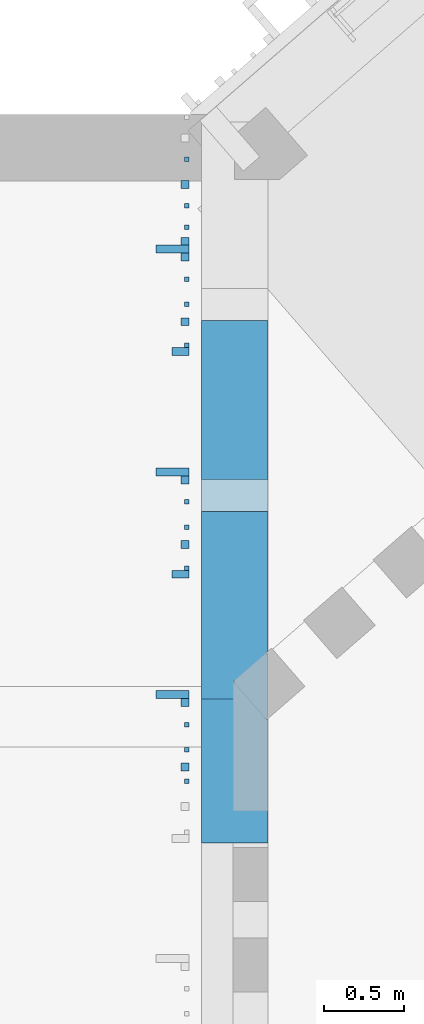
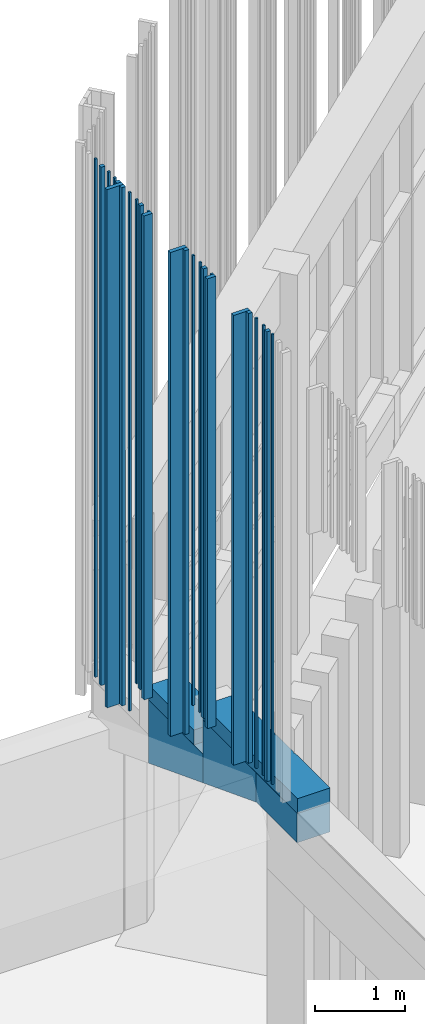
# One storey, part 130 of 390: 30 walls.
"""IFC2X3 building model written with IfcOpenShell, lengths in millimetres."""

from ifc_helpers import new_model, entity, si_unit, converted_unit, derived_unit, money_unit, direction, frame, origin_with_axes, place, context, subcontext, project, spatial, faceted_brep, material, material_list, type_object, element, save


model = new_model("IFC2X3")

# Units and contexts
model_context = context("Model", 3, precision=1e-05, world=origin_with_axes(), true_north=direction((0.0, 1.0)))
body_context = subcontext(model_context, "Body", "Model", "MODEL_VIEW")
ifc_project = project(units=[si_unit("LENGTHUNIT", "METRE", prefix="MILLI"), si_unit("AREAUNIT", "SQUARE_METRE"), si_unit("VOLUMEUNIT", "CUBIC_METRE"), converted_unit("PLANEANGLEUNIT", "DEGREE", entity("IfcPlaneAngleMeasure", 0.0174532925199), si_unit("PLANEANGLEUNIT", "RADIAN"), dimensions=[0, 0, 0, 0, 0, 0, 0]), si_unit("SOLIDANGLEUNIT", "STERADIAN"), money_unit("EUR"), converted_unit("TIMEUNIT", "Year", entity("IfcTimeMeasure", 31556926.0), si_unit("TIMEUNIT", "SECOND"), dimensions=[0, 0, 1, 0, 0, 0, 0]), si_unit("MASSUNIT", "GRAM", prefix="KILO"), si_unit("THERMODYNAMICTEMPERATUREUNIT", "DEGREE_CELSIUS"), si_unit("LUMINOUSINTENSITYUNIT", "LUMEN"), si_unit("ENERGYUNIT", "JOULE", prefix="MEGA"), derived_unit("THERMALCONDUCTANCEUNIT", [(si_unit("POWERUNIT", "WATT"), 1), (si_unit("LENGTHUNIT", "METRE"), -1), (si_unit("THERMODYNAMICTEMPERATUREUNIT", "KELVIN"), -1)]), derived_unit("SPECIFICHEATCAPACITYUNIT", [(si_unit("ENERGYUNIT", "JOULE"), 1), (si_unit("MASSUNIT", "GRAM", prefix="KILO"), -1), (si_unit("THERMODYNAMICTEMPERATUREUNIT", "KELVIN"), -1)]), derived_unit("MASSDENSITYUNIT", [(si_unit("MASSUNIT", "GRAM", prefix="KILO"), 1), (si_unit("VOLUMEUNIT", "CUBIC_METRE"), -1)])], contexts=[model_context])

# Site, building, storey
site_placement = place(None, origin_with_axes())
site = spatial("IfcSite", under=ifc_project, at=site_placement, Name="Site", CompositionType="ELEMENT")
building_placement = place(site_placement, origin_with_axes())
building = spatial("IfcBuilding", under=site, at=building_placement, Name="Building", CompositionType="ELEMENT")
storey_placement = place(building_placement, origin_with_axes())
storey = spatial("IfcBuildingStorey", under=building, at=storey_placement, Name="1 korrus", CompositionType="ELEMENT", Elevation=0.0)

# Walls
ifc_material_1 = material(Name="Membraan - Veekindel")
ifc_material_2 = material(Name="Soojustus - Plastik Kõva")
ifc_material_3 = material(Name="Raudbetoon - Konstruktsioon")
ifc_material_4 = material(Name="Krohv - Lubjakivi")
ifc_material_list_1 = material_list([ifc_material_1, ifc_material_1, ifc_material_2, ifc_material_2, ifc_material_3, ifc_material_4, ifc_material_4])
wall_type_1 = type_object("IfcWallType", Name="VS-03", PredefinedType="NOTDEFINED")
wall_1_placement = place(storey_placement, frame((122909.999995, 71828.9918313, 3200.23676118), z_axis=(0.0, 0.0, 1.0), x_axis=(0.0, 1.0, 0.0)))
element("IfcWall", 1, at=wall_1_placement, inside=storey, type_object=wall_type_1, material=ifc_material_list_1, Name="VS-03", context=body_context, shape_type="Brep", body=[
    faceted_brep([(905.52616027, 420.000000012, 0.0), (905.52616027, 415.000000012, 0.0), (-5.55644419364e-09, 415.0, 0.0), (-5.62749846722e-09, 420.0, 0.0), (905.52616027, 420.000000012, 394.763238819), (905.52616027, 415.000000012, 394.763238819), (-5.55644419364e-09, 415.0, 394.763238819), (-5.62749846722e-09, 420.0, 394.763238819)], [[[0, 1, 2, 3]], [[0, 4, 5, 1]], [[1, 5, 6, 2]], [[3, 2, 6, 7]], [[4, 0, 3, 7]], [[5, 4, 7, 6]]]),
    faceted_brep([(905.52616027, 415.000000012, 0.0), (905.52616027, 410.000000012, 0.0), (-5.48538992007e-09, 410.0, 0.0), (-5.55644419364e-09, 415.0, 0.0), (905.52616027, 415.000000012, 394.763238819), (905.52616027, 410.000000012, 394.763238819), (-5.48538992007e-09, 410.0, 394.763238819), (-5.55644419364e-09, 415.0, 394.763238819)], [[[0, 1, 2, 3]], [[0, 4, 5, 1]], [[1, 5, 6, 2]], [[3, 2, 6, 7]], [[4, 0, 3, 7]], [[5, 4, 7, 6]]]),
    faceted_brep([(905.52616027, 410.000000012, 0.0), (905.526160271, 360.000000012, 0.0), (-4.81747974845e-09, 360.0, 0.0), (-5.48538992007e-09, 410.0, 0.0), (905.52616027, 410.000000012, 394.763238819), (905.526160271, 360.000000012, 394.763238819), (-4.81747974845e-09, 360.0, 394.763238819), (-5.48538992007e-09, 410.0, 394.763238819)], [[[0, 1, 2, 3]], [[0, 4, 5, 1]], [[1, 5, 6, 2]], [[3, 2, 6, 7]], [[4, 0, 3, 7]], [[5, 4, 7, 6]]]),
    faceted_brep([(905.526160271, 360.000000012, 0.0), (905.526160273, 210.000000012, 0.0), (-2.81374923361e-09, 210.0, 0.0), (-4.81747974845e-09, 360.0, 0.0), (905.526160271, 360.000000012, 394.763238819), (905.526160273, 210.000000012, 394.763238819), (-2.81374923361e-09, 210.0, 394.763238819), (-4.81747974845e-09, 360.0, 394.763238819)], [[[0, 1, 2, 3]], [[0, 4, 5, 1]], [[1, 5, 6, 2]], [[3, 2, 6, 7]], [[4, 0, 3, 7]], [[5, 4, 7, 6]]]),
    faceted_brep([(905.526160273, 210.000000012, 0.0), (905.526160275, 10.0000000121, 0.0), (-1.27897692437e-10, 10.0, 0.0), (-2.81374923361e-09, 210.0, 0.0), (905.526160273, 210.000000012, 394.763238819), (905.526160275, 10.0000000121, 394.763238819), (-1.27897692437e-10, 10.0, 394.763238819), (-2.81374923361e-09, 210.0, 394.763238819)], [[[0, 1, 2, 3]], [[0, 4, 5, 1]], [[1, 5, 6, 2]], [[3, 2, 6, 7]], [[4, 0, 3, 7]], [[5, 4, 7, 6]]]),
    faceted_brep([(782.265032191, 1.04876107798e-08, 0.0), (782.265032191, 1.04876107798e-08, 394.763238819), (0.0, 0.0, 394.763238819), (0.0, 0.0, 0.0), (773.572164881, 10.0000000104, 394.763238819), (773.572164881, 10.0000000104, 0.0), (-1.27897692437e-10, 10.0, 394.763238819), (-1.27897692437e-10, 10.0, 0.0)], [[[0, 1, 2, 3]], [[4, 1, 0, 5]], [[1, 4, 6, 2]], [[6, 7, 3, 2]], [[5, 0, 3, 7]], [[4, 5, 7, 6]]]),
    faceted_brep([(788.691278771, 10.0000000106, 394.763238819), (787.626730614, 9.07460242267, 394.763238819), (795.51516208, 1.06581410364e-08, 394.763238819), (905.526160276, 1.21360699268e-08, 394.763238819), (905.526160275, 10.0000000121, 394.763238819), (788.691278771, 10.0000000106, 0.0), (787.626730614, 9.07460242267, 0.0), (795.51516208, 1.06581410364e-08, 0.0), (905.526160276, 1.21360699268e-08, 0.0), (905.526160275, 10.0000000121, 0.0)], [[[0, 1, 2, 3, 4]], [[1, 0, 5, 6]], [[7, 2, 1, 6]], [[2, 7, 8, 3]], [[8, 9, 4, 3]], [[5, 0, 4, 9]], [[6, 5, 9, 8, 7]]]),
])
ifc_material_list_2 = material_list([ifc_material_1, ifc_material_1, ifc_material_2, ifc_material_2, ifc_material_3, ifc_material_4])
wall_type_2 = type_object("IfcWallType", Name="VS-04", PredefinedType="NOTDEFINED")
wall_2_placement = place(storey_placement, frame((122910.0, 73913.9918312, 1734.76324011), z_axis=(0.0, 0.0, 1.0), x_axis=(0.0, 1.0, 0.0)))
element("IfcWall", 2, at=wall_2_placement, inside=storey, type_object=wall_type_2, material=ifc_material_list_2, Name="VS-03", context=body_context, shape_type="Brep", body=[
    faceted_brep([(-5.55644419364e-09, 415.0, 1011.41857124), (1200.0, 415.000000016, 549.461789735), (1200.0, 415.000000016, 1400.23675989), (-5.55644419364e-09, 415.0, 1400.23675989), (1200.0, 420.000000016, 549.461789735), (-5.62749846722e-09, 420.0, 1011.41857124), (1200.0, 420.000000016, 1400.23675989), (-5.62749846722e-09, 420.0, 1400.23675989)], [[[0, 1, 2, 3]], [[4, 1, 0, 5]], [[1, 4, 6, 2]], [[3, 2, 6, 7]], [[5, 0, 3, 7]], [[4, 5, 7, 6]]]),
    faceted_brep([(-5.49960077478e-09, 410.0, 1011.41857124), (1200.0, 410.000000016, 549.461789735), (1200.0, 410.000000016, 1400.23675989), (-5.49960077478e-09, 410.0, 1400.23675989), (1200.0, 415.000000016, 549.461789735), (-5.55644419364e-09, 415.0, 1011.41857124), (1200.0, 415.000000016, 1400.23675989), (-5.55644419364e-09, 415.0, 1400.23675989)], [[[0, 1, 2, 3]], [[4, 1, 0, 5]], [[1, 4, 6, 2]], [[3, 2, 6, 7]], [[5, 0, 3, 7]], [[4, 5, 7, 6]]]),
    faceted_brep([(-4.83169060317e-09, 360.0, 1011.41857124), (1200.0, 360.000000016, 549.461789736), (1200.0, 360.000000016, 1400.23675989), (-4.83169060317e-09, 360.0, 1400.23675989), (1200.0, 410.000000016, 549.461789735), (-5.49960077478e-09, 410.0, 1011.41857124), (1200.0, 410.000000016, 1400.23675989), (-5.49960077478e-09, 410.0, 1400.23675989)], [[[0, 1, 2, 3]], [[4, 1, 0, 5]], [[1, 4, 6, 2]], [[3, 2, 6, 7]], [[5, 0, 3, 7]], [[4, 5, 7, 6]]]),
    faceted_brep([(-2.81374923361e-09, 210.0, 1011.41857125), (1200.0, 210.000000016, 549.461789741), (1200.0, 210.000000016, 1400.23675989), (-2.81374923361e-09, 210.0, 1400.23675989), (1200.0, 360.000000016, 549.461789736), (-4.83169060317e-09, 360.0, 1011.41857124), (1200.0, 360.000000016, 1400.23675989), (-4.83169060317e-09, 360.0, 1400.23675989)], [[[0, 1, 2, 3]], [[4, 1, 0, 5]], [[1, 4, 6, 2]], [[3, 2, 6, 7]], [[5, 0, 3, 7]], [[4, 5, 7, 6]]]),
    faceted_brep([(-1.42108547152e-10, 10.0, 1011.41857125), (1200.00000001, 10.0000000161, 549.461789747), (1200.00000001, 10.0000000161, 1400.23675989), (-1.42108547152e-10, 10.0, 1400.23675989), (1200.0, 210.000000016, 549.461789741), (-2.81374923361e-09, 210.0, 1011.41857125), (1200.0, 210.000000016, 1400.23675989), (-2.81374923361e-09, 210.0, 1400.23675989)], [[[0, 1, 2, 3]], [[4, 1, 0, 5]], [[1, 4, 6, 2]], [[3, 2, 6, 7]], [[5, 0, 3, 7]], [[4, 5, 7, 6]]]),
    faceted_brep([(0.0, 0.0, 1011.41857125), (1200.00000001, 1.60724766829e-08, 549.461789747), (1200.00000001, 1.60724766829e-08, 1400.23675989), (0.0, 0.0, 1400.23675989), (1200.00000001, 10.0000000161, 549.461789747), (-1.42108547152e-10, 10.0, 1011.41857125), (1200.00000001, 10.0000000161, 1400.23675989), (-1.42108547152e-10, 10.0, 1400.23675989)], [[[0, 1, 2, 3]], [[4, 1, 0, 5]], [[1, 4, 6, 2]], [[3, 2, 6, 7]], [[5, 0, 3, 7]], [[4, 5, 7, 6]]]),
])
wall_3_placement = place(storey_placement, frame((122909.999995, 72734.5179915, 2194.76324011), z_axis=(0.0, 0.0, 1.0), x_axis=(0.0, 1.0, 0.0)))
element("IfcWall", 3, at=wall_3_placement, inside=storey, type_object=wall_type_2, material=ifc_material_list_2, Name="VS-03", context=body_context, shape_type="Brep", body=[
    faceted_brep([(-1.53664814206e-06, 415.0, 1005.47352088), (1179.47383971, 415.000000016, 551.418571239), (1179.47383971, 415.000000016, 1400.23675989), (-5.57065504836e-09, 415.0, 1400.23675989), (1179.47383971, 420.000000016, 551.418571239), (-1.53396229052e-06, 420.0, 1005.47352088), (1179.47383971, 420.000000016, 1400.23675989), (-5.62749846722e-09, 420.0, 1400.23675989)], [[[0, 1, 2, 3]], [[4, 1, 0, 5]], [[1, 4, 6, 2]], [[3, 2, 6, 7]], [[5, 0, 3, 7]], [[4, 5, 7, 6]]]),
    faceted_brep([(-1.53931978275e-06, 410.0, 1005.47352088), (1179.47383971, 410.000000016, 551.418571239), (1179.47383971, 410.000000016, 1400.23675989), (-5.49960077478e-09, 410.0, 1400.23675989), (1179.47383971, 415.000000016, 551.418571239), (-1.53664814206e-06, 415.0, 1005.47352088), (1179.47383971, 415.000000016, 1400.23675989), (-5.57065504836e-09, 415.0, 1400.23675989)], [[[0, 1, 2, 3]], [[4, 1, 0, 5]], [[1, 4, 6, 2]], [[3, 2, 6, 7]], [[5, 0, 3, 7]], [[4, 5, 7, 6]]]),
    faceted_brep([(-1.56607882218e-06, 360.0, 1005.47352089), (1179.47383971, 360.000000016, 551.418571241), (1179.47383971, 360.000000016, 1400.23675989), (-4.83169060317e-09, 360.0, 1400.23675989), (1179.47383971, 410.000000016, 551.418571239), (-1.53931978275e-06, 410.0, 1005.47352088), (1179.47383971, 410.000000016, 1400.23675989), (-5.49960077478e-09, 410.0, 1400.23675989)], [[[0, 1, 2, 3]], [[4, 1, 0, 5]], [[1, 4, 6, 2]], [[3, 2, 6, 7]], [[5, 0, 3, 7]], [[4, 5, 7, 6]]]),
    faceted_brep([(-1.64632751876e-06, 210.0, 1005.47352093), (1179.47383972, 210.000000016, 551.418571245), (1179.47383972, 210.000000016, 1400.23675989), (-2.81374923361e-09, 210.0, 1400.23675989), (1179.47383971, 360.000000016, 551.418571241), (-1.56607882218e-06, 360.0, 1005.47352089), (1179.47383971, 360.000000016, 1400.23675989), (-4.83169060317e-09, 360.0, 1400.23675989)], [[[0, 1, 2, 3]], [[4, 1, 0, 5]], [[1, 4, 6, 2]], [[3, 2, 6, 7]], [[5, 0, 3, 7]], [[4, 5, 7, 6]]]),
    faceted_brep([(-1.75334946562e-06, 10.0, 1005.47352098), (1179.47383972, 10.0000000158, 551.418571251), (1179.47383972, 10.0000000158, 1400.23675989), (-1.42108547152e-10, 10.0, 1400.23675989), (1179.47383972, 210.000000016, 551.418571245), (-1.64632751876e-06, 210.0, 1005.47352093), (1179.47383972, 210.000000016, 1400.23675989), (-2.81374923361e-09, 210.0, 1400.23675989)], [[[0, 1, 2, 3]], [[4, 1, 0, 5]], [[1, 4, 6, 2]], [[3, 2, 6, 7]], [[5, 0, 3, 7]], [[4, 5, 7, 6]]]),
    faceted_brep([(-1.75869274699e-06, 0.0, 1005.47352098), (1179.47383972, 1.58024704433e-08, 551.418571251), (1179.47383972, 1.58024704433e-08, 1400.23675989), (0.0, 0.0, 1400.23675989), (1179.47383972, 10.0000000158, 551.418571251), (-1.75334946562e-06, 10.0, 1005.47352098), (1179.47383972, 10.0000000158, 1400.23675989), (-1.42108547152e-10, 10.0, 1400.23675989)], [[[0, 1, 2, 3]], [[4, 1, 0, 5]], [[1, 4, 6, 2]], [[3, 2, 6, 7]], [[5, 0, 3, 7]], [[4, 5, 7, 6]]]),
])
ifc_material_5 = material(Name="Site specified")
wall_type_3 = type_object("IfcWallType", Name="Puitfassaadi ribistik", PredefinedType="NOTDEFINED")
wall_4_placement = place(storey_placement, frame((122398.999994, 72415.0000101, 3795.0), z_axis=(0.0, 0.0, 1.0), x_axis=(0.0, 1.0, 0.0)))
element("IfcWall", 4, at=wall_4_placement, inside=storey, type_object=wall_type_3, material=ifc_material_5, Name="Site specified", context=body_context, shape_type="Brep", body=[
    faceted_brep([(14.0, 14.0, 6070.0), (14.0, 14.0, 0.0), (-14.0, 14.0, 0.0), (-14.0, 14.0, 6070.0), (14.0, -14.0, 6070.0), (14.0, -14.0, 0.0), (-14.0, -14.0, 0.0), (-14.0, -14.0, 6070.0)], [[[0, 1, 2, 3]], [[4, 5, 1, 0]], [[2, 1, 5, 6]], [[3, 2, 6, 7]], [[4, 0, 3, 7]], [[7, 6, 5, 4]]]),
])
wall_5_placement = place(storey_placement, frame((122308.499994, 72762.0000101, 3795.0), z_axis=(0.0, 0.0, 1.0), x_axis=(0.0, 1.0, 0.0)))
element("IfcWall", 5, at=wall_5_placement, inside=storey, type_object=wall_type_3, material=ifc_material_5, Name="Site specified", context=body_context, shape_type="Brep", body=[
    faceted_brep([(25.0, 104.5, 6070.0), (25.0, 104.5, 0.0), (-25.0, 104.5, 0.0), (-25.0, 104.5, 6070.0), (25.0, -104.5, 6070.0), (25.0, -104.5, 0.0), (-25.0, -104.5, 0.0), (-25.0, -104.5, 6070.0)], [[[0, 1, 2, 3]], [[4, 5, 1, 0]], [[2, 1, 5, 6]], [[3, 2, 6, 7]], [[4, 0, 3, 7]], [[7, 6, 5, 4]]]),
])
wall_6_placement = place(storey_placement, frame((122387.999994, 72712.0000101, 3795.0), z_axis=(0.0, 0.0, 1.0), x_axis=(0.0, 1.0, 0.0)))
element("IfcWall", 6, at=wall_6_placement, inside=storey, type_object=wall_type_3, material=ifc_material_5, Name="Site specified", context=body_context, shape_type="Brep", body=[
    faceted_brep([(25.0, 25.0, 6070.0), (25.0, 25.0, 0.0), (-25.0, 25.0, 0.0), (-25.0, 25.0, 6070.0), (25.0, -25.0, 6070.0), (25.0, -25.0, 0.0), (-25.0, -25.0, 0.0), (-25.0, -25.0, 6070.0)], [[[0, 1, 2, 3]], [[4, 5, 1, 0]], [[2, 1, 5, 6]], [[3, 2, 6, 7]], [[4, 0, 3, 7]], [[7, 6, 5, 4]]]),
])
wall_7_placement = place(storey_placement, frame((122387.999994, 75106.0000101, 3335.0), z_axis=(0.0, 0.0, 1.0), x_axis=(0.0, 1.0, 0.0)))
element("IfcWall", 7, at=wall_7_placement, inside=storey, type_object=wall_type_3, material=ifc_material_5, Name="Site specified", context=body_context, shape_type="Brep", body=[
    faceted_brep([(25.0, 25.0, 6530.0), (25.0, 25.0, 0.0), (-25.0, 25.0, 0.0), (-25.0, 25.0, 6530.0), (25.0, -25.0, 6530.0), (25.0, -25.0, 0.0), (-25.0, -25.0, 0.0), (-25.0, -25.0, 6530.0)], [[[0, 1, 2, 3]], [[4, 5, 1, 0]], [[2, 1, 5, 6]], [[3, 2, 6, 7]], [[4, 0, 3, 7]], [[7, 6, 5, 4]]]),
])
wall_8_placement = place(storey_placement, frame((122398.999994, 73973.0000101, 3795.0), z_axis=(0.0, 0.0, 1.0), x_axis=(0.0, 1.0, 0.0)))
element("IfcWall", 8, at=wall_8_placement, inside=storey, type_object=wall_type_3, material=ifc_material_5, Name="Site specified", context=body_context, shape_type="Brep", body=[
    faceted_brep([(14.0, 14.0, 6070.0), (14.0, 14.0, 0.0), (-14.0, 14.0, 0.0), (-14.0, 14.0, 6070.0), (14.0, -14.0, 6070.0), (14.0, -14.0, 0.0), (-14.0, -14.0, 0.0), (-14.0, -14.0, 6070.0)], [[[0, 1, 2, 3]], [[4, 5, 1, 0]], [[2, 1, 5, 6]], [[3, 2, 6, 7]], [[4, 0, 3, 7]], [[7, 6, 5, 4]]]),
])
wall_9_placement = place(storey_placement, frame((122387.999994, 73706.0000101, 3795.0), z_axis=(0.0, 0.0, 1.0), x_axis=(0.0, 1.0, 0.0)))
element("IfcWall", 9, at=wall_9_placement, inside=storey, type_object=wall_type_3, material=ifc_material_5, Name="Site specified", context=body_context, shape_type="Brep", body=[
    faceted_brep([(25.0, 25.0, 6070.0), (25.0, 25.0, 0.0), (-25.0, 25.0, 0.0), (-25.0, 25.0, 6070.0), (25.0, -25.0, 6070.0), (25.0, -25.0, 0.0), (-25.0, -25.0, 0.0), (-25.0, -25.0, 6070.0)], [[[0, 1, 2, 3]], [[4, 5, 1, 0]], [[2, 1, 5, 6]], [[3, 2, 6, 7]], [[4, 0, 3, 7]], [[7, 6, 5, 4]]]),
])
wall_10_placement = place(storey_placement, frame((122398.999994, 72573.0000101, 3795.0), z_axis=(0.0, 0.0, 1.0), x_axis=(0.0, 1.0, 0.0)))
element("IfcWall", 10, at=wall_10_placement, inside=storey, type_object=wall_type_3, material=ifc_material_5, Name="Site specified", context=body_context, shape_type="Brep", body=[
    faceted_brep([(14.0, 14.0, 6070.0), (14.0, 14.0, 0.0), (-14.0, 14.0, 0.0), (-14.0, 14.0, 6070.0), (14.0, -14.0, 6070.0), (14.0, -14.0, 0.0), (-14.0, -14.0, 0.0), (-14.0, -14.0, 6070.0)], [[[0, 1, 2, 3]], [[4, 5, 1, 0]], [[2, 1, 5, 6]], [[3, 2, 6, 7]], [[4, 0, 3, 7]], [[7, 6, 5, 4]]]),
])
wall_11_placement = place(storey_placement, frame((122387.999994, 72306.0000101, 3795.0), z_axis=(0.0, 0.0, 1.0), x_axis=(0.0, 1.0, 0.0)))
element("IfcWall", 11, at=wall_11_placement, inside=storey, type_object=wall_type_3, material=ifc_material_5, Name="Site specified", context=body_context, shape_type="Brep", body=[
    faceted_brep([(25.0, 25.0, 6070.0), (25.0, 25.0, 0.0), (-25.0, 25.0, 0.0), (-25.0, 25.0, 6070.0), (25.0, -25.0, 6070.0), (25.0, -25.0, 0.0), (-25.0, -25.0, 0.0), (-25.0, -25.0, 6070.0)], [[[0, 1, 2, 3]], [[4, 5, 1, 0]], [[2, 1, 5, 6]], [[3, 2, 6, 7]], [[4, 0, 3, 7]], [[7, 6, 5, 4]]]),
])
wall_12_placement = place(storey_placement, frame((122398.999994, 72217.0000101, 3795.0), z_axis=(0.0, 0.0, 1.0), x_axis=(0.0, 1.0, 0.0)))
element("IfcWall", 12, at=wall_12_placement, inside=storey, type_object=wall_type_3, material=ifc_material_5, Name="Site specified", context=body_context, shape_type="Brep", body=[
    faceted_brep([(14.0, 14.0, 6070.0), (14.0, 14.0, 0.0), (-14.0, 14.0, 0.0), (-14.0, 14.0, 6070.0), (14.0, -14.0, 6070.0), (14.0, -14.0, 0.0), (-14.0, -14.0, 0.0), (-14.0, -14.0, 6070.0)], [[[0, 1, 2, 3]], [[4, 5, 1, 0]], [[2, 1, 5, 6]], [[3, 2, 6, 7]], [[4, 0, 3, 7]], [[7, 6, 5, 4]]]),
])
wall_13_placement = place(storey_placement, frame((122398.999994, 74957.0000101, 3335.0), z_axis=(0.0, 0.0, 1.0), x_axis=(0.0, 1.0, 0.0)))
element("IfcWall", 13, at=wall_13_placement, inside=storey, type_object=wall_type_3, material=ifc_material_5, Name="Site specified", context=body_context, shape_type="Brep", body=[
    faceted_brep([(14.0, 14.0, 6530.0), (14.0, 14.0, 0.0), (-14.0, 14.0, 0.0), (-14.0, 14.0, 6530.0), (14.0, -14.0, 6530.0), (14.0, -14.0, 0.0), (-14.0, -14.0, 0.0), (-14.0, -14.0, 6530.0)], [[[0, 1, 2, 3]], [[4, 5, 1, 0]], [[2, 1, 5, 6]], [[3, 2, 6, 7]], [[4, 0, 3, 7]], [[7, 6, 5, 4]]]),
])
wall_14_placement = place(storey_placement, frame((122358.499994, 74918.0000101, 3335.0), z_axis=(0.0, 0.0, 1.0), x_axis=(0.0, 1.0, 0.0)))
element("IfcWall", 14, at=wall_14_placement, inside=storey, type_object=wall_type_3, material=ifc_material_5, Name="Site specified", context=body_context, shape_type="Brep", body=[
    faceted_brep([(25.0, 54.5, 6530.0), (25.0, 54.5, 0.0), (-25.0, 54.5, 0.0), (-25.0, 54.5, 6530.0), (25.0, -54.5, 6530.0), (25.0, -54.5, 0.0), (-25.0, -54.5, 0.0), (-25.0, -54.5, 6530.0)], [[[0, 1, 2, 3]], [[4, 5, 1, 0]], [[2, 1, 5, 6]], [[3, 2, 6, 7]], [[4, 0, 3, 7]], [[7, 6, 5, 4]]]),
])
wall_15_placement = place(storey_placement, frame((122398.999994, 75215.0000101, 3335.0), z_axis=(0.0, 0.0, 1.0), x_axis=(0.0, 1.0, 0.0)))
element("IfcWall", 15, at=wall_15_placement, inside=storey, type_object=wall_type_3, material=ifc_material_5, Name="Site specified", context=body_context, shape_type="Brep", body=[
    faceted_brep([(14.0, 14.0, 6530.0), (14.0, 14.0, 0.0), (-14.0, 14.0, 0.0), (-14.0, 14.0, 6530.0), (14.0, -14.0, 6530.0), (14.0, -14.0, 0.0), (-14.0, -14.0, 0.0), (-14.0, -14.0, 6530.0)], [[[0, 1, 2, 3]], [[4, 5, 1, 0]], [[2, 1, 5, 6]], [[3, 2, 6, 7]], [[4, 0, 3, 7]], [[7, 6, 5, 4]]]),
])
wall_16_placement = place(storey_placement, frame((122387.999994, 75512.0000101, 2871.0), z_axis=(0.0, 0.0, 1.0), x_axis=(0.0, 1.0, 0.0)))
element("IfcWall", 16, at=wall_16_placement, inside=storey, type_object=wall_type_3, material=ifc_material_5, Name="Site specified", context=body_context, shape_type="Brep", body=[
    faceted_brep([(25.0, 25.0, 6994.0), (25.0, 25.0, 0.0), (-25.0, 25.0, 0.0), (-25.0, 25.0, 6994.0), (25.0, -25.0, 6994.0), (25.0, -25.0, 0.0), (-25.0, -25.0, 0.0), (-25.0, -25.0, 6994.0)], [[[0, 1, 2, 3]], [[4, 5, 1, 0]], [[2, 1, 5, 6]], [[3, 2, 6, 7]], [[4, 0, 3, 7]], [[7, 6, 5, 4]]]),
])
wall_17_placement = place(storey_placement, frame((122387.999994, 74112.0000101, 3335.0), z_axis=(0.0, 0.0, 1.0), x_axis=(0.0, 1.0, 0.0)))
element("IfcWall", 17, at=wall_17_placement, inside=storey, type_object=wall_type_3, material=ifc_material_5, Name="Site specified", context=body_context, shape_type="Brep", body=[
    faceted_brep([(25.0, 25.0, 6530.0), (25.0, 25.0, 0.0), (-25.0, 25.0, 0.0), (-25.0, 25.0, 6530.0), (25.0, -25.0, 6530.0), (25.0, -25.0, 0.0), (-25.0, -25.0, 0.0), (-25.0, -25.0, 6530.0)], [[[0, 1, 2, 3]], [[4, 5, 1, 0]], [[2, 1, 5, 6]], [[3, 2, 6, 7]], [[4, 0, 3, 7]], [[7, 6, 5, 4]]]),
])
wall_18_placement = place(storey_placement, frame((122308.499994, 75562.0000101, 2871.0), z_axis=(0.0, 0.0, 1.0), x_axis=(0.0, 1.0, 0.0)))
element("IfcWall", 18, at=wall_18_placement, inside=storey, type_object=wall_type_3, material=ifc_material_5, Name="Site specified", context=body_context, shape_type="Brep", body=[
    faceted_brep([(25.0, 104.5, 6994.0), (25.0, 104.5, 0.0), (-25.0, 104.5, 0.0), (-25.0, 104.5, 6994.0), (25.0, -104.5, 6994.0), (25.0, -104.5, 0.0), (-25.0, -104.5, 0.0), (-25.0, -104.5, 6994.0)], [[[0, 1, 2, 3]], [[4, 5, 1, 0]], [[2, 1, 5, 6]], [[3, 2, 6, 7]], [[4, 0, 3, 7]], [[7, 6, 5, 4]]]),
])
for number, where, z_axis, x_axis, name in (
    (19, (122398.999994, 73815.0000101, 3795.0), (0.0, 0.0, 1.0), (0.0, 1.0, 0.0), "Site specified"),
    (20, (122398.999994, 73557.0000101, 3795.0), (0.0, 0.0, 1.0), (0.0, 1.0, 0.0), "Site specified"),
):
    element("IfcWall", number, at=place(storey_placement, frame(where, z_axis=z_axis, x_axis=x_axis)), inside=storey, type_object=wall_type_3, material=ifc_material_5, Name=name, context=body_context, shape_type="Brep", body=[
        faceted_brep([(14.0, 14.0, 6070.0), (14.0, 14.0, 0.0), (-14.0, 14.0, 0.0), (-14.0, 14.0, 6070.0), (14.0, -14.0, 6070.0), (14.0, -14.0, 0.0), (-14.0, -14.0, 0.0), (-14.0, -14.0, 6070.0)], [[[0, 1, 2, 3]], [[4, 5, 1, 0]], [[2, 1, 5, 6]], [[3, 2, 6, 7]], [[4, 0, 3, 7]], [[7, 6, 5, 4]]]),
    ])
wall_19_placement = place(storey_placement, frame((122358.499994, 73518.0000101, 3795.0), z_axis=(0.0, 0.0, 1.0), x_axis=(0.0, 1.0, 0.0)))
element("IfcWall", 21, at=wall_19_placement, inside=storey, type_object=wall_type_3, material=ifc_material_5, Name="Site specified", context=body_context, shape_type="Brep", body=[
    faceted_brep([(25.0, 54.5, 6070.0), (25.0, 54.5, 0.0), (-25.0, 54.5, 0.0), (-25.0, 54.5, 6070.0), (25.0, -54.5, 6070.0), (25.0, -54.5, 0.0), (-25.0, -54.5, 0.0), (-25.0, -54.5, 6070.0)], [[[0, 1, 2, 3]], [[4, 5, 1, 0]], [[2, 1, 5, 6]], [[3, 2, 6, 7]], [[4, 0, 3, 7]], [[7, 6, 5, 4]]]),
])
wall_20_placement = place(storey_placement, frame((122308.499994, 74162.0000101, 3335.0), z_axis=(0.0, 0.0, 1.0), x_axis=(0.0, 1.0, 0.0)))
element("IfcWall", 22, at=wall_20_placement, inside=storey, type_object=wall_type_3, material=ifc_material_5, Name="Site specified", context=body_context, shape_type="Brep", body=[
    faceted_brep([(25.0, 104.5, 6530.0), (25.0, 104.5, 0.0), (-25.0, 104.5, 0.0), (-25.0, 104.5, 6530.0), (25.0, -104.5, 6530.0), (25.0, -104.5, 0.0), (-25.0, -104.5, 0.0), (-25.0, -104.5, 6530.0)], [[[0, 1, 2, 3]], [[4, 5, 1, 0]], [[2, 1, 5, 6]], [[3, 2, 6, 7]], [[4, 0, 3, 7]], [[7, 6, 5, 4]]]),
])
wall_21_placement = place(storey_placement, frame((122387.999994, 75612.0000101, 2871.0), z_axis=(0.0, 0.0, 1.0), x_axis=(0.0, 1.0, 0.0)))
element("IfcWall", 23, at=wall_21_placement, inside=storey, type_object=wall_type_3, material=ifc_material_5, Name="Site specified", context=body_context, shape_type="Brep", body=[
    faceted_brep([(25.0, 25.0, 6994.0), (25.0, 25.0, 0.0), (-25.0, 25.0, 0.0), (-25.0, 25.0, 6994.0), (25.0, -25.0, 6994.0), (25.0, -25.0, 0.0), (-25.0, -25.0, 0.0), (-25.0, -25.0, 6994.0)], [[[0, 1, 2, 3]], [[4, 5, 1, 0]], [[2, 1, 5, 6]], [[3, 2, 6, 7]], [[4, 0, 3, 7]], [[7, 6, 5, 4]]]),
])
for number, where, z_axis, x_axis, name in (
    (24, (122398.999994, 75373.0000101, 2871.0), (0.0, 0.0, 1.0), (0.0, 1.0, 0.0), "Site specified"),
    (25, (122398.999994, 75701.0000101, 2871.0), (0.0, 0.0, 1.0), (0.0, 1.0, 0.0), "Site specified"),
):
    element("IfcWall", number, at=place(storey_placement, frame(where, z_axis=z_axis, x_axis=x_axis)), inside=storey, type_object=wall_type_3, material=ifc_material_5, Name=name, context=body_context, shape_type="Brep", body=[
        faceted_brep([(14.0, 14.0, 6994.0), (14.0, 14.0, 0.0), (-14.0, 14.0, 0.0), (-14.0, 14.0, 6994.0), (14.0, -14.0, 6994.0), (14.0, -14.0, 0.0), (-14.0, -14.0, 0.0), (-14.0, -14.0, 6994.0)], [[[0, 1, 2, 3]], [[4, 5, 1, 0]], [[2, 1, 5, 6]], [[3, 2, 6, 7]], [[4, 0, 3, 7]], [[7, 6, 5, 4]]]),
    ])
wall_22_placement = place(storey_placement, frame((122387.999994, 75968.0000101, 2871.0), z_axis=(0.0, 0.0, 1.0), x_axis=(0.0, 1.0, 0.0)))
element("IfcWall", 26, at=wall_22_placement, inside=storey, type_object=wall_type_3, material=ifc_material_5, Name="Site specified", context=body_context, shape_type="Brep", body=[
    faceted_brep([(-25.0, 25.0, 6994.0), (25.0, 25.0, 6994.0), (25.0, 25.0, 0.0), (-25.0, 25.0, 0.0), (-25.0, -25.0, 6994.0), (25.0, -25.0, 6994.0), (25.0, -25.0, 0.0), (-25.0, -25.0, 0.0)], [[[0, 1, 2, 3]], [[4, 5, 1, 0]], [[1, 5, 6, 2]], [[7, 3, 2, 6]], [[4, 0, 3, 7]], [[5, 4, 7, 6]]]),
])
for number, where, z_axis, x_axis, name in (
    (27, (122398.999994, 75834.0000101, 2871.0), (0.0, 0.0, 1.0), (0.0, 1.0, 0.0), "Site specified"),
    (28, (122398.999994, 76127.0000101, 2871.0), (0.0, 0.0, 1.0), (0.0, 1.0, 0.0), "Site specified"),
):
    element("IfcWall", number, at=place(storey_placement, frame(where, z_axis=z_axis, x_axis=x_axis)), inside=storey, type_object=wall_type_3, material=ifc_material_5, Name=name, context=body_context, shape_type="Brep", body=[
        faceted_brep([(-14.0, 14.0, 6994.0), (14.0, 14.0, 6994.0), (14.0, 14.0, 0.0), (-14.0, 14.0, 0.0), (-14.0, -14.0, 6994.0), (14.0, -14.0, 6994.0), (14.0, -14.0, 0.0), (-14.0, -14.0, 0.0)], [[[0, 1, 2, 3]], [[4, 5, 1, 0]], [[1, 5, 6, 2]], [[7, 3, 2, 6]], [[4, 0, 3, 7]], [[5, 4, 7, 6]]]),
    ])
ifc_material_6 = material(Name="Plaat - Sein")
ifc_material_list_3 = material_list([ifc_material_6, ifc_material_2, ifc_material_2, ifc_material_3, ifc_material_4, ifc_material_4, ifc_material_4])
wall_type_4 = type_object("IfcWallType", Name="VS-05", PredefinedType="NOTDEFINED")
wall_23_placement = place(storey_placement, frame((122909.999995, 71828.9918313, 3595.0), z_axis=(0.0, 0.0, 1.0), x_axis=(0.0, 1.0, 0.0)))
element("IfcWall", 29, at=wall_23_placement, inside=storey, type_object=wall_type_4, material=ifc_material_list_3, Name="VS-05", context=body_context, shape_type="Brep", body=[
    faceted_brep([(2084.99999999, 418.000000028, 0.0), (2084.99999999, 410.000000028, 0.0), (-5.49960077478e-09, 410.0, 0.0), (-5.59907675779e-09, 418.0, 0.0), (2084.99999999, 418.000000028, 200.0), (2084.99999999, 410.000000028, 200.0), (-5.49960077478e-09, 410.0, 200.0), (-5.59907675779e-09, 418.0, 200.0)], [[[0, 1, 2, 3]], [[0, 4, 5, 1]], [[1, 5, 6, 2]], [[3, 2, 6, 7]], [[4, 0, 3, 7]], [[5, 4, 7, 6]]]),
    faceted_brep([(2084.99999999, 410.000000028, 0.0), (2084.99999999, 360.000000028, 0.0), (-4.81747974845e-09, 360.0, 0.0), (-5.49960077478e-09, 410.0, 0.0), (2084.99999999, 410.000000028, 200.0), (2084.99999999, 360.000000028, 200.0), (-4.81747974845e-09, 360.0, 200.0), (-5.49960077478e-09, 410.0, 200.0)], [[[0, 1, 2, 3]], [[0, 4, 5, 1]], [[1, 5, 6, 2]], [[3, 2, 6, 7]], [[4, 0, 3, 7]], [[5, 4, 7, 6]]]),
    faceted_brep([(1003.52243109, 210.000000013, 200.0), (1015.02611101, 219.999996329, 200.0), (1023.71897512, 210.000000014, 200.0), (2084.99999999, 210.000000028, 200.0), (2084.99999999, 360.000000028, 200.0), (-4.81747974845e-09, 360.0, 200.0), (-2.81374923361e-09, 210.0, 200.0), (1003.52243109, 210.000000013, 0.0), (1015.02611101, 219.999996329, 0.0), (1023.71897512, 210.000000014, 0.0), (2084.99999999, 210.000000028, 0.0), (2084.99999999, 360.000000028, 0.0), (-4.81747974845e-09, 360.0, 0.0), (-2.81374923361e-09, 210.0, 0.0)], [[[0, 1, 2, 3, 4, 5, 6]], [[1, 0, 7, 8]], [[9, 2, 1, 8]], [[2, 9, 10, 3]], [[10, 11, 4, 3]], [[5, 4, 11, 12]], [[5, 12, 13, 6]], [[7, 0, 6, 13]], [[8, 7, 13, 12, 11, 10, 9]]]),
    faceted_brep([(2084.99999999, 210.000000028, 0.0), (2084.99999999, 10.0000000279, 0.0), (-1.27897692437e-10, 10.0, 0.0), (-2.81374923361e-09, 210.0, 0.0), (2084.99999999, 210.000000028, 200.0), (2084.99999999, 10.0000000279, 200.0), (-1.27897692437e-10, 10.0, 200.0), (-2.81374923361e-09, 210.0, 200.0)], [[[0, 1, 2, 3]], [[0, 4, 5, 1]], [[1, 5, 6, 2]], [[3, 2, 6, 7]], [[4, 0, 3, 7]], [[5, 4, 7, 6]]]),
    faceted_brep([(782.265032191, 1.04876107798e-08, 0.0), (782.265032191, 1.04876107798e-08, 200.0), (0.0, 0.0, 200.0), (0.0, 0.0, 0.0), (773.572164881, 10.0000000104, 200.0), (773.572164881, 10.0000000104, 0.0), (-1.27897692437e-10, 10.0, 200.0), (-1.27897692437e-10, 10.0, 0.0)], [[[0, 1, 2, 3]], [[4, 1, 0, 5]], [[1, 4, 6, 2]], [[6, 7, 3, 2]], [[5, 0, 3, 7]], [[4, 5, 7, 6]]]),
    faceted_brep([(1193.01905874, 1.59872115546e-08, 200.0), (1184.32619143, 10.0000000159, 200.0), (788.691278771, 10.0000000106, 200.0), (787.626730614, 9.07460242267, 200.0), (795.51516208, 1.06723518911e-08, 200.0), (1193.01905874, 1.59872115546e-08, 0.0), (1184.32619143, 10.0000000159, 0.0), (788.691278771, 10.0000000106, 0.0), (787.626730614, 9.07460242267, 0.0), (795.51516208, 1.06723518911e-08, 0.0)], [[[0, 1, 2, 3, 4]], [[1, 0, 5, 6]], [[1, 6, 7, 2]], [[3, 2, 7, 8]], [[9, 4, 3, 8]], [[5, 0, 4, 9]], [[6, 5, 9, 8, 7]]]),
    faceted_brep([(1197.57632132, 10.0000000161, 200.0), (1206.26918863, 1.61719526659e-08, 200.0), (2084.99999999, 2.79385403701e-08, 200.0), (2084.99999999, 10.0000000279, 200.0), (1206.26918863, 1.61719526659e-08, 0.0), (1197.57632132, 10.0000000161, 0.0), (2084.99999999, 2.79385403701e-08, 0.0), (2084.99999999, 10.0000000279, 0.0)], [[[0, 1, 2, 3]], [[4, 1, 0, 5]], [[1, 4, 6, 2]], [[6, 7, 3, 2]], [[5, 0, 3, 7]], [[4, 5, 7, 6]]]),
])
ifc_material_list_4 = material_list([ifc_material_6, ifc_material_2, ifc_material_2, ifc_material_3, ifc_material_4])
wall_24_placement = place(storey_placement, frame((122910.0, 74113.9918313, 3135.0), z_axis=(0.0, 0.0, 1.0), x_axis=(0.0, 1.0, 0.0)))
element("IfcWall", 30, at=wall_24_placement, inside=storey, type_object=wall_type_4, material=ifc_material_list_4, Name="VS-05", context=body_context, shape_type="Brep", body=[
    faceted_brep([(999.999999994, 418.000000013, 0.0), (999.999999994, 410.000000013, 0.0), (-5.49960077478e-09, 410.0, 0.0), (-5.59907675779e-09, 418.0, 0.0), (999.999999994, 418.000000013, 200.0), (999.999999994, 410.000000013, 200.0), (-5.49960077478e-09, 410.0, 200.0), (-5.59907675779e-09, 418.0, 200.0)], [[[0, 1, 2, 3]], [[0, 4, 5, 1]], [[1, 5, 6, 2]], [[3, 2, 6, 7]], [[4, 0, 3, 7]], [[5, 4, 7, 6]]]),
    faceted_brep([(999.999999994, 410.000000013, 0.0), (999.999999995, 360.000000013, 0.0), (-4.81747974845e-09, 360.0, 0.0), (-5.49960077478e-09, 410.0, 0.0), (999.999999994, 410.000000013, 200.0), (999.999999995, 360.000000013, 200.0), (-4.81747974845e-09, 360.0, 200.0), (-5.49960077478e-09, 410.0, 200.0)], [[[0, 1, 2, 3]], [[0, 4, 5, 1]], [[1, 5, 6, 2]], [[3, 2, 6, 7]], [[4, 0, 3, 7]], [[5, 4, 7, 6]]]),
    faceted_brep([(999.999999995, 360.000000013, 0.0), (999.999999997, 210.000000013, 0.0), (-2.81374923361e-09, 210.0, 0.0), (-4.81747974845e-09, 360.0, 0.0), (999.999999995, 360.000000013, 200.0), (999.999999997, 210.000000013, 200.0), (-2.81374923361e-09, 210.0, 200.0), (-4.81747974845e-09, 360.0, 200.0)], [[[0, 1, 2, 3]], [[0, 4, 5, 1]], [[1, 5, 6, 2]], [[3, 2, 6, 7]], [[4, 0, 3, 7]], [[5, 4, 7, 6]]]),
    faceted_brep([(999.999999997, 210.000000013, 0.0), (1000.0, 10.0000000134, 0.0), (-1.27897692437e-10, 10.0, 0.0), (-2.81374923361e-09, 210.0, 0.0), (999.999999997, 210.000000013, 200.0), (1000.0, 10.0000000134, 200.0), (-1.27897692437e-10, 10.0, 200.0), (-2.81374923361e-09, 210.0, 200.0)], [[[0, 1, 2, 3]], [[0, 4, 5, 1]], [[1, 5, 6, 2]], [[3, 2, 6, 7]], [[4, 0, 3, 7]], [[5, 4, 7, 6]]]),
    faceted_brep([(1000.0, 10.0000000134, 0.0), (1000.0, 1.34008359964e-08, 0.0), (0.0, 0.0, 0.0), (-1.27897692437e-10, 10.0, 0.0), (1000.0, 10.0000000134, 200.0), (1000.0, 1.34008359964e-08, 200.0), (0.0, 0.0, 200.0), (-1.27897692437e-10, 10.0, 200.0)], [[[0, 1, 2, 3]], [[0, 4, 5, 1]], [[1, 5, 6, 2]], [[3, 2, 6, 7]], [[4, 0, 3, 7]], [[5, 4, 7, 6]]]),
])

save(model, "model.ifc")
